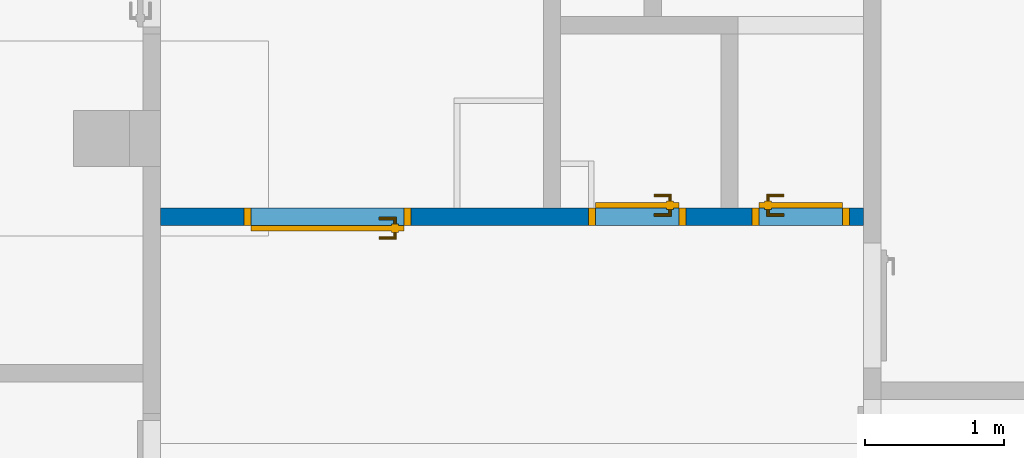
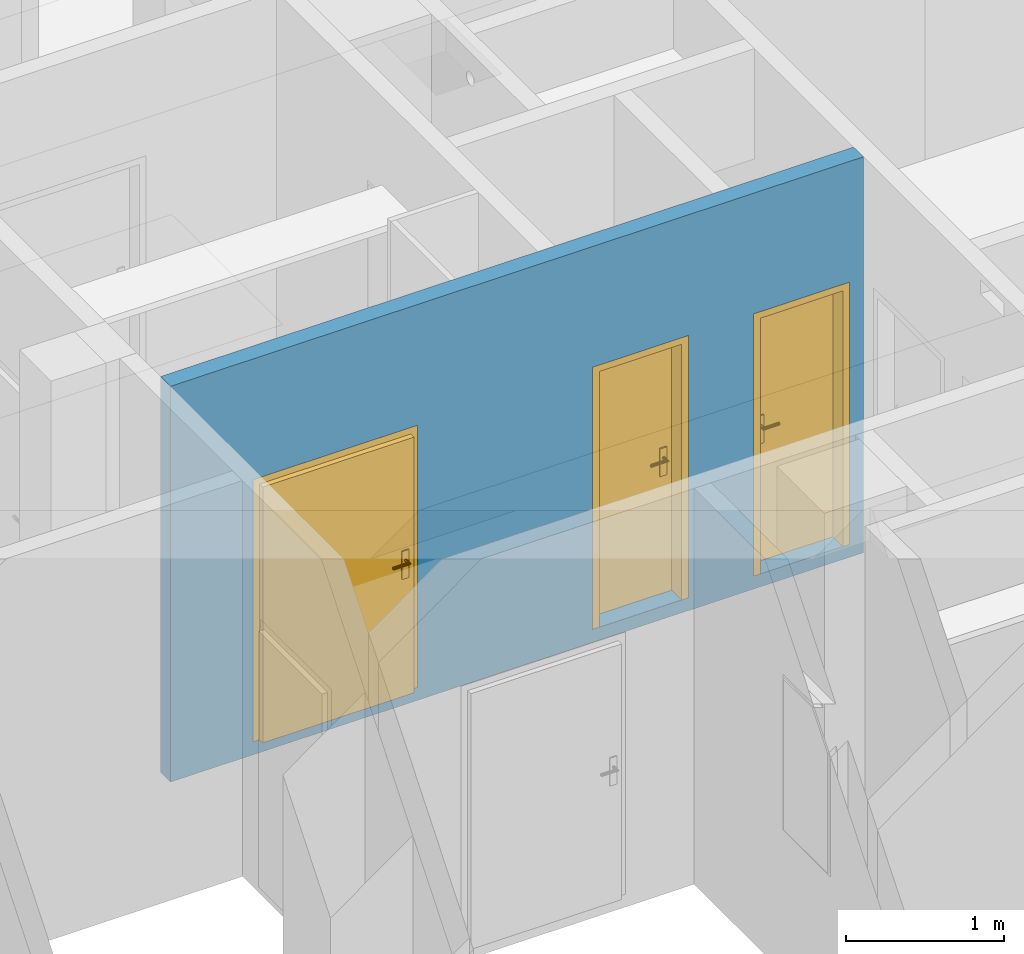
# One storey, part 37 of 84: 3 doors, 1 wall, 3 openings.
"""IFC4 building model written with IfcOpenShell, lengths in metres."""

from ifc_helpers import new_model, entity, si_unit, converted_unit, derived_unit, frame, frame_2d, origin, origin_with_axes, place, context, subcontext, project, spatial, polyline, rectangle, outline, extrude, closed_shell, open_shell, surface_model, source, transform, mapped, material, layer, layer_set, layer_usage, type_object, element, fill, save


model = new_model("IFC4")

# Units and contexts
model_context = context("Model", 3, precision=1e-05, world=origin())
body_context = subcontext(model_context, "Body", "Model", "MODEL_VIEW")
ifc_project = project(units=[si_unit("LENGTHUNIT", "METRE"), si_unit("AREAUNIT", "SQUARE_METRE"), si_unit("VOLUMEUNIT", "CUBIC_METRE"), si_unit("MASSUNIT", "GRAM", prefix="KILO"), converted_unit("PLANEANGLEUNIT", "DEGREE", entity("IfcPlaneAngleMeasure", 0.0174532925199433), si_unit("PLANEANGLEUNIT", "RADIAN"), dimensions=[0, 0, 0, 0, 0, 0, 0]), derived_unit("THERMALTRANSMITTANCEUNIT", [(si_unit("POWERUNIT", "WATT"), 1), (si_unit("THERMODYNAMICTEMPERATUREUNIT", "KELVIN"), -1), (si_unit("LENGTHUNIT", "METRE"), -2)]), derived_unit("VOLUMETRICFLOWRATEUNIT", [(si_unit("LENGTHUNIT", "METRE"), 3), (converted_unit("TIMEUNIT", "hour", entity("IfcTimeMeasure", 3600.0), si_unit("TIMEUNIT", "SECOND"), dimensions=[0, 0, 1, 0, 0, 0, 0]), -1), (si_unit("LENGTHUNIT", "METRE"), -1)])], contexts=[model_context])

# Site, building, storey
site_placement = place(None, origin())
site = spatial("IfcSite", under=ifc_project, at=site_placement, Name="3. ASŘ", CompositionType="ELEMENT")
building_placement = place(site_placement, origin())
building = spatial("IfcBuilding", under=site, at=building_placement, Name="Pavilon C", CompositionType="ELEMENT")
storey_placement = place(building_placement, frame((0.0, 0.0, -3.3)))
storey = spatial("IfcBuildingStorey", under=building, at=storey_placement, Name="Půdorys 1.PP", CompositionType="ELEMENT", Elevation=-3.3)

# Wall, openings, doors
ifc_material = material(Name="ZDIVO Z CDm")
ifc_layer = layer(ifc_material, 0.125)
ifc_layer_set = layer_set([ifc_layer])
ifc_layer_usage = layer_usage(ifc_layer_set, "AXIS2", "POSITIVE", 0.0)
wall_placement = place(storey_placement, frame((45.825, 16.3, -0.1), z_axis=(0.0, 0.0, 1.0), x_axis=(-1.0, 0.0, 0.0)))
wall = element("IfcWall", 1, at=wall_placement, inside=storey, material=ifc_layer_usage, Name="ZDIVO Z CDm", context=body_context, shape_type="SweptSolid", body=[
    extrude(rectangle(XDim=5.05, YDim=0.125, at=frame_2d((2.525, 0.0625), x_axis=(1.0, 0.0))), origin_with_axes(), (0.0, 0.0, 1.0), 3.05),
])
opening_1_placement = place(wall_placement, frame((1.975, 0.125, 0.1), z_axis=(0.0, -1.0, 0.0), x_axis=(0.0, 0.0, 1.0)))
opening_1 = element("IfcOpeningElement", 2, at=opening_1_placement, cuts=wall, Name="Dveřní otvor", ObjectType="Opening", context=body_context, shape_type="SweptSolid", body=[
    extrude(outline(polyline([(0.0, 0.7), (2.02, 0.7), (2.02, 0.0), (0.0, 0.0), (0.0, 0.7)])), origin_with_axes(), (0.0, 0.0, 1.0), 0.125),
])
opening_2_placement = place(wall_placement, frame((0.1, 0.0, 0.1), z_axis=(0.0, 1.0, 0.0), x_axis=(0.0, 0.0, 1.0)))
opening_2 = element("IfcOpeningElement", 3, at=opening_2_placement, cuts=wall, Name="Dveřní otvor", ObjectType="Opening", context=body_context, shape_type="SweptSolid", body=[
    extrude(outline(polyline([(0.0, 0.7), (2.02, 0.7), (2.02, 0.0), (0.0, 0.0), (0.0, 0.7)])), origin_with_axes(), (0.0, 0.0, 1.0), 0.125),
])
opening_3_placement = place(wall_placement, frame((3.25000000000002, 0.0, 0.1), z_axis=(0.0, 1.0, 0.0), x_axis=(0.0, 0.0, 1.0)))
opening_3 = element("IfcOpeningElement", 4, at=opening_3_placement, cuts=wall, Name="Dveřní otvor", ObjectType="Opening", context=body_context, shape_type="SweptSolid", body=[
    extrude(outline(polyline([(0.0, 1.2), (2.02, 1.2), (2.02, 0.0), (0.0, 0.0), (0.0, 1.2)])), origin_with_axes(), (0.0, 0.0, 1.0), 0.125),
])
door_type_1 = type_object("IfcDoorType", Name="D101", OperationType="NOTDEFINED", ParameterTakesPrecedence=False, PredefinedType="DOOR")
shared_shape_1 = source(origin_with_axes(), body_context, "Body", "SurfaceModel", [
    surface_model("IfcShellBasedSurfaceModel", [(0.0, 0.125, 2.02), (0.0, 0.125, -7.65404249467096e-18), (0.05, 0.125, -7.65404249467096e-18), (0.05, 0.125, 2.02), (0.0, 0.0, 7.65404249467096e-18), (0.0, 2.41584530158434e-16, 2.02), (0.05, 2.41584530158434e-16, 2.02), (0.05, 0.0, 7.65404249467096e-18)], [closed_shell([[[0, 1, 2, 3]], [[4, 5, 6, 7]], [[1, 0, 5, 4]], [[2, 1, 4, 7]], [[3, 2, 7, 6]], [[0, 3, 6, 5]]], orient=[[False], [False], [False], [False], [False], [False]])]),
    surface_model("IfcShellBasedSurfaceModel", [(0.65, 0.125, 2.02), (0.65, 0.125, -7.65404249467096e-18), (0.7, 0.125, -7.65404249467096e-18), (0.7, 0.125, 2.02), (0.65, 0.0, 7.65404249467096e-18), (0.65, 2.41584530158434e-16, 2.02), (0.7, 2.41584530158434e-16, 2.02), (0.7, 0.0, 7.65404249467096e-18)], [closed_shell([[[0, 1, 2, 3]], [[4, 5, 6, 7]], [[1, 0, 5, 4]], [[2, 1, 4, 7]], [[3, 2, 7, 6]], [[0, 3, 6, 5]]], orient=[[False], [False], [False], [False], [False], [False]])]),
    surface_model("IfcShellBasedSurfaceModel", [(0.05, 0.125, 2.02), (0.05, 0.125, 1.97), (0.65, 0.125, 1.97), (0.65, 0.125, 2.02), (0.05, 2.41584530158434e-16, 1.97), (0.05, 2.41584530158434e-16, 2.02), (0.65, 2.41584530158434e-16, 2.02), (0.65, 2.41584530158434e-16, 1.97)], [closed_shell([[[0, 1, 2, 3]], [[4, 5, 6, 7]], [[1, 0, 5, 4]], [[2, 1, 4, 7]], [[3, 2, 7, 6]], [[0, 3, 6, 5]]], orient=[[False], [False], [False], [False], [False], [False]])]),
    surface_model("IfcShellBasedSurfaceModel", [(0.05, 0.165, 1.97), (0.05, 0.165, -1.25526296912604e-17), (0.65, 0.165, -1.25526296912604e-17), (0.65, 0.165, 1.97), (0.05, 0.125, -7.65404249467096e-18), (0.05, 0.125, 1.97), (0.65, 0.125, 1.97), (0.65, 0.125, -7.65404249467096e-18)], [closed_shell([[[0, 1, 2, 3]], [[4, 5, 6, 7]], [[1, 0, 5, 4]], [[2, 1, 4, 7]], [[3, 2, 7, 6]], [[0, 3, 6, 5]]], orient=[[False], [False], [False], [False], [False], [False]])]),
    surface_model("IfcShellBasedSurfaceModel", [(0.56, 0.125, 1.125), (0.56, 0.125, 0.91), (0.61, 0.125, 0.91), (0.61, 0.125, 1.125), (0.56, 0.115, 0.91), (0.56, 0.115, 1.125), (0.61, 0.115, 1.125), (0.61, 0.115, 0.91)], [closed_shell([[[0, 1, 2, 3]], [[4, 5, 6, 7]], [[1, 0, 5, 4]], [[2, 1, 4, 7]], [[3, 2, 7, 6]], [[0, 3, 6, 5]]], orient=[[False], [False], [False], [False], [False], [False]])]),
    surface_model("IfcShellBasedSurfaceModel", [(0.585, 0.115, 1.06), (0.58, 0.115, 1.05866025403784), (0.576339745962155, 0.115, 1.055), (0.575, 0.115, 1.05), (0.576339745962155, 0.115, 1.045), (0.58, 0.115, 1.04133974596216), (0.585, 0.115, 1.04), (0.59, 0.115, 1.04133974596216), (0.593660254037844, 0.115, 1.045), (0.595, 0.115, 1.05), (0.593660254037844, 0.115, 1.055), (0.59, 0.115, 1.05866025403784), (0.59, 0.0700000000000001, 1.05866025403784), (0.585, 0.0750000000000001, 1.06), (0.593660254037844, 0.0663397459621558, 1.055), (0.595, 0.0650000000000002, 1.05), (0.593660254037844, 0.0663397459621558, 1.045), (0.59, 0.0700000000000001, 1.04133974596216), (0.585, 0.0750000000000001, 1.04), (0.58, 0.0800000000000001, 1.04133974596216), (0.576339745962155, 0.0836602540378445, 1.045), (0.575, 0.0850000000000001, 1.05), (0.576339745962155, 0.0836602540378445, 1.055), (0.58, 0.0800000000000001, 1.05866025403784), (0.47, 0.0700000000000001, 1.05866025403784), (0.47, 0.0750000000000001, 1.06), (0.47, 0.0663397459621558, 1.055), (0.47, 0.0650000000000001, 1.05), (0.47, 0.0663397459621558, 1.045), (0.47, 0.0700000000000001, 1.04133974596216), (0.47, 0.0750000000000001, 1.04), (0.47, 0.0800000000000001, 1.04133974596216), (0.47, 0.0836602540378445, 1.045), (0.47, 0.0850000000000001, 1.05), (0.47, 0.0836602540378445, 1.055), (0.47, 0.0800000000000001, 1.05866025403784)], [open_shell([[[0, 1, 2, 3, 4, 5, 6, 7, 8, 9, 10, 11]], [[0, 11, 12, 13]], [[11, 10, 14, 12]], [[10, 9, 15, 14]], [[9, 8, 16, 15]], [[8, 7, 17, 16]], [[7, 6, 18, 17]], [[6, 5, 19, 18]], [[5, 4, 20, 19]], [[4, 3, 21, 20]], [[3, 2, 22, 21]], [[2, 1, 23, 22]], [[1, 0, 13, 23]], [[13, 12, 24, 25]], [[12, 14, 26, 24]], [[14, 15, 27, 26]], [[15, 16, 28, 27]], [[16, 17, 29, 28]], [[17, 18, 30, 29]], [[18, 19, 31, 30]], [[19, 20, 32, 31]], [[20, 21, 33, 32]], [[21, 22, 34, 33]], [[22, 23, 35, 34]], [[23, 13, 25, 35]]], orient=[[False], [False], [False], [False], [False], [False], [False], [False], [False], [False], [False], [False], [False], [False], [False], [False], [False], [False], [False], [False], [False], [False], [False], [False], [False]])]),
    surface_model("IfcShellBasedSurfaceModel", [(0.56, 0.165, 1.125), (0.61, 0.165, 1.125), (0.61, 0.165, 0.91), (0.56, 0.165, 0.91), (0.56, 0.175, 0.91), (0.61, 0.175, 0.91), (0.61, 0.175, 1.125), (0.56, 0.175, 1.125)], [closed_shell([[[0, 1, 2, 3]], [[4, 5, 6, 7]], [[3, 4, 7, 0]], [[2, 5, 4, 3]], [[1, 6, 5, 2]], [[0, 7, 6, 1]]], orient=[[False], [False], [False], [False], [False], [False]])]),
    surface_model("IfcShellBasedSurfaceModel", [(0.585, 0.175, 1.06), (0.59, 0.175, 1.05866025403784), (0.593660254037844, 0.175, 1.055), (0.595, 0.175, 1.05), (0.593660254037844, 0.175, 1.045), (0.59, 0.175, 1.04133974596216), (0.585, 0.175, 1.04), (0.58, 0.175, 1.04133974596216), (0.576339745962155, 0.175, 1.045), (0.575, 0.175, 1.05), (0.576339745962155, 0.175, 1.055), (0.58, 0.175, 1.05866025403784), (0.585, 0.215, 1.06), (0.59, 0.22, 1.05866025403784), (0.593660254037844, 0.223660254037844, 1.055), (0.595, 0.225, 1.05), (0.593660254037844, 0.223660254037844, 1.045), (0.59, 0.22, 1.04133974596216), (0.585, 0.215, 1.04), (0.58, 0.21, 1.04133974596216), (0.576339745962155, 0.206339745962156, 1.045), (0.575, 0.205, 1.05), (0.576339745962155, 0.206339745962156, 1.055), (0.58, 0.21, 1.05866025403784), (0.47, 0.215, 1.06), (0.47, 0.22, 1.05866025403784), (0.47, 0.223660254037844, 1.055), (0.47, 0.225, 1.05), (0.47, 0.223660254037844, 1.045), (0.47, 0.22, 1.04133974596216), (0.47, 0.215, 1.04), (0.47, 0.21, 1.04133974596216), (0.47, 0.206339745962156, 1.045), (0.47, 0.205, 1.05), (0.47, 0.206339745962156, 1.055), (0.47, 0.21, 1.05866025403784)], [open_shell([[[0, 1, 2, 3, 4, 5, 6, 7, 8, 9, 10, 11]], [[0, 12, 13, 1]], [[1, 13, 14, 2]], [[2, 14, 15, 3]], [[3, 15, 16, 4]], [[4, 16, 17, 5]], [[5, 17, 18, 6]], [[6, 18, 19, 7]], [[7, 19, 20, 8]], [[8, 20, 21, 9]], [[9, 21, 22, 10]], [[10, 22, 23, 11]], [[11, 23, 12, 0]], [[12, 24, 25, 13]], [[13, 25, 26, 14]], [[14, 26, 27, 15]], [[15, 27, 28, 16]], [[16, 28, 29, 17]], [[17, 29, 30, 18]], [[18, 30, 31, 19]], [[19, 31, 32, 20]], [[20, 32, 33, 21]], [[21, 33, 34, 22]], [[22, 34, 35, 23]], [[23, 35, 24, 12]]], orient=[[False], [False], [False], [False], [False], [False], [False], [False], [False], [False], [False], [False], [False], [False], [False], [False], [False], [False], [False], [False], [False], [False], [False], [False], [False]])]),
])
door_1_placement = place(opening_2_placement, frame((0.0, 0.0, 0.125), z_axis=(1.0, 0.0, 0.0), x_axis=(0.0, 1.0, -2.44929359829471e-16)))
door_1 = element("IfcDoor", 5, at=door_1_placement, inside=storey, type_object=door_type_1, Name="D101", OverallHeight=2.02, OverallWidth=0.7, context=body_context, shape_type="MappedRepresentation", body=[
    mapped(shared_shape_1, transform((0.0, 0.0, 0.0), x_axis=(1.0, 0.0, 0.0), y_axis=(0.0, -1.0, 0.0), z_axis=(0.0, 0.0, 1.0), scale=1.0)),
])
fill(opening_2, door_1)
door_type_2 = type_object("IfcDoorType", Name="D101", OperationType="NOTDEFINED", ParameterTakesPrecedence=False, PredefinedType="DOOR")
shared_shape_2 = source(origin_with_axes(), body_context, "Body", "SurfaceModel", [
    surface_model("IfcShellBasedSurfaceModel", [(0.0, 0.125, 2.02), (0.0, 0.125, -7.65404249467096e-18), (0.05, 0.125, -7.65404249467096e-18), (0.05, 0.125, 2.02), (0.0, 0.0, 7.65404249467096e-18), (0.0, 2.41584530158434e-16, 2.02), (0.05, 2.41584530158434e-16, 2.02), (0.05, 0.0, 7.65404249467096e-18)], [closed_shell([[[0, 1, 2, 3]], [[4, 5, 6, 7]], [[1, 0, 5, 4]], [[2, 1, 4, 7]], [[3, 2, 7, 6]], [[0, 3, 6, 5]]], orient=[[False], [False], [False], [False], [False], [False]])]),
    surface_model("IfcShellBasedSurfaceModel", [(0.65, 0.125, 2.02), (0.65, 0.125, -7.65404249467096e-18), (0.7, 0.125, -7.65404249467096e-18), (0.7, 0.125, 2.02), (0.65, 0.0, 7.65404249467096e-18), (0.65, 2.41584530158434e-16, 2.02), (0.7, 2.41584530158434e-16, 2.02), (0.7, 0.0, 7.65404249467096e-18)], [closed_shell([[[0, 1, 2, 3]], [[4, 5, 6, 7]], [[1, 0, 5, 4]], [[2, 1, 4, 7]], [[3, 2, 7, 6]], [[0, 3, 6, 5]]], orient=[[False], [False], [False], [False], [False], [False]])]),
    surface_model("IfcShellBasedSurfaceModel", [(0.05, 0.125, 2.02), (0.05, 0.125, 1.97), (0.65, 0.125, 1.97), (0.65, 0.125, 2.02), (0.05, 2.41584530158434e-16, 1.97), (0.05, 2.41584530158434e-16, 2.02), (0.65, 2.41584530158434e-16, 2.02), (0.65, 2.41584530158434e-16, 1.97)], [closed_shell([[[0, 1, 2, 3]], [[4, 5, 6, 7]], [[1, 0, 5, 4]], [[2, 1, 4, 7]], [[3, 2, 7, 6]], [[0, 3, 6, 5]]], orient=[[False], [False], [False], [False], [False], [False]])]),
    surface_model("IfcShellBasedSurfaceModel", [(0.05, 0.165, 1.97), (0.05, 0.165, -1.25526296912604e-17), (0.65, 0.165, -1.25526296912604e-17), (0.65, 0.165, 1.97), (0.05, 0.125, -7.65404249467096e-18), (0.05, 0.125, 1.97), (0.65, 0.125, 1.97), (0.65, 0.125, -7.65404249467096e-18)], [closed_shell([[[0, 1, 2, 3]], [[4, 5, 6, 7]], [[1, 0, 5, 4]], [[2, 1, 4, 7]], [[3, 2, 7, 6]], [[0, 3, 6, 5]]], orient=[[False], [False], [False], [False], [False], [False]])]),
    surface_model("IfcShellBasedSurfaceModel", [(0.56, 0.125, 1.125), (0.56, 0.125, 0.91), (0.61, 0.125, 0.91), (0.61, 0.125, 1.125), (0.56, 0.115, 0.91), (0.56, 0.115, 1.125), (0.61, 0.115, 1.125), (0.61, 0.115, 0.91)], [closed_shell([[[0, 1, 2, 3]], [[4, 5, 6, 7]], [[1, 0, 5, 4]], [[2, 1, 4, 7]], [[3, 2, 7, 6]], [[0, 3, 6, 5]]], orient=[[False], [False], [False], [False], [False], [False]])]),
    surface_model("IfcShellBasedSurfaceModel", [(0.585, 0.115, 1.06), (0.58, 0.115, 1.05866025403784), (0.576339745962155, 0.115, 1.055), (0.575, 0.115, 1.05), (0.576339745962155, 0.115, 1.045), (0.58, 0.115, 1.04133974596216), (0.585, 0.115, 1.04), (0.59, 0.115, 1.04133974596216), (0.593660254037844, 0.115, 1.045), (0.595, 0.115, 1.05), (0.593660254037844, 0.115, 1.055), (0.59, 0.115, 1.05866025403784), (0.59, 0.0700000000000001, 1.05866025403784), (0.585, 0.0750000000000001, 1.06), (0.593660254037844, 0.0663397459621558, 1.055), (0.595, 0.0650000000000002, 1.05), (0.593660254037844, 0.0663397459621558, 1.045), (0.59, 0.0700000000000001, 1.04133974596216), (0.585, 0.0750000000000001, 1.04), (0.58, 0.0800000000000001, 1.04133974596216), (0.576339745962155, 0.0836602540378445, 1.045), (0.575, 0.0850000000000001, 1.05), (0.576339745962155, 0.0836602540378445, 1.055), (0.58, 0.0800000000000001, 1.05866025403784), (0.47, 0.0700000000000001, 1.05866025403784), (0.47, 0.0750000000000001, 1.06), (0.47, 0.0663397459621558, 1.055), (0.47, 0.0650000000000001, 1.05), (0.47, 0.0663397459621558, 1.045), (0.47, 0.0700000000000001, 1.04133974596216), (0.47, 0.0750000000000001, 1.04), (0.47, 0.0800000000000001, 1.04133974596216), (0.47, 0.0836602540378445, 1.045), (0.47, 0.0850000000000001, 1.05), (0.47, 0.0836602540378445, 1.055), (0.47, 0.0800000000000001, 1.05866025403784)], [open_shell([[[0, 1, 2, 3, 4, 5, 6, 7, 8, 9, 10, 11]], [[0, 11, 12, 13]], [[11, 10, 14, 12]], [[10, 9, 15, 14]], [[9, 8, 16, 15]], [[8, 7, 17, 16]], [[7, 6, 18, 17]], [[6, 5, 19, 18]], [[5, 4, 20, 19]], [[4, 3, 21, 20]], [[3, 2, 22, 21]], [[2, 1, 23, 22]], [[1, 0, 13, 23]], [[13, 12, 24, 25]], [[12, 14, 26, 24]], [[14, 15, 27, 26]], [[15, 16, 28, 27]], [[16, 17, 29, 28]], [[17, 18, 30, 29]], [[18, 19, 31, 30]], [[19, 20, 32, 31]], [[20, 21, 33, 32]], [[21, 22, 34, 33]], [[22, 23, 35, 34]], [[23, 13, 25, 35]]], orient=[[False], [False], [False], [False], [False], [False], [False], [False], [False], [False], [False], [False], [False], [False], [False], [False], [False], [False], [False], [False], [False], [False], [False], [False], [False]])]),
    surface_model("IfcShellBasedSurfaceModel", [(0.56, 0.165, 1.125), (0.61, 0.165, 1.125), (0.61, 0.165, 0.91), (0.56, 0.165, 0.91), (0.56, 0.175, 0.91), (0.61, 0.175, 0.91), (0.61, 0.175, 1.125), (0.56, 0.175, 1.125)], [closed_shell([[[0, 1, 2, 3]], [[4, 5, 6, 7]], [[3, 4, 7, 0]], [[2, 5, 4, 3]], [[1, 6, 5, 2]], [[0, 7, 6, 1]]], orient=[[False], [False], [False], [False], [False], [False]])]),
    surface_model("IfcShellBasedSurfaceModel", [(0.585, 0.175, 1.06), (0.59, 0.175, 1.05866025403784), (0.593660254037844, 0.175, 1.055), (0.595, 0.175, 1.05), (0.593660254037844, 0.175, 1.045), (0.59, 0.175, 1.04133974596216), (0.585, 0.175, 1.04), (0.58, 0.175, 1.04133974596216), (0.576339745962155, 0.175, 1.045), (0.575, 0.175, 1.05), (0.576339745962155, 0.175, 1.055), (0.58, 0.175, 1.05866025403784), (0.585, 0.215, 1.06), (0.59, 0.22, 1.05866025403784), (0.593660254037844, 0.223660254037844, 1.055), (0.595, 0.225, 1.05), (0.593660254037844, 0.223660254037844, 1.045), (0.59, 0.22, 1.04133974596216), (0.585, 0.215, 1.04), (0.58, 0.21, 1.04133974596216), (0.576339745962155, 0.206339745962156, 1.045), (0.575, 0.205, 1.05), (0.576339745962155, 0.206339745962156, 1.055), (0.58, 0.21, 1.05866025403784), (0.47, 0.215, 1.06), (0.47, 0.22, 1.05866025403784), (0.47, 0.223660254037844, 1.055), (0.47, 0.225, 1.05), (0.47, 0.223660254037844, 1.045), (0.47, 0.22, 1.04133974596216), (0.47, 0.215, 1.04), (0.47, 0.21, 1.04133974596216), (0.47, 0.206339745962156, 1.045), (0.47, 0.205, 1.05), (0.47, 0.206339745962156, 1.055), (0.47, 0.21, 1.05866025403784)], [open_shell([[[0, 1, 2, 3, 4, 5, 6, 7, 8, 9, 10, 11]], [[0, 12, 13, 1]], [[1, 13, 14, 2]], [[2, 14, 15, 3]], [[3, 15, 16, 4]], [[4, 16, 17, 5]], [[5, 17, 18, 6]], [[6, 18, 19, 7]], [[7, 19, 20, 8]], [[8, 20, 21, 9]], [[9, 21, 22, 10]], [[10, 22, 23, 11]], [[11, 23, 12, 0]], [[12, 24, 25, 13]], [[13, 25, 26, 14]], [[14, 26, 27, 15]], [[15, 27, 28, 16]], [[16, 28, 29, 17]], [[17, 29, 30, 18]], [[18, 30, 31, 19]], [[19, 31, 32, 20]], [[20, 32, 33, 21]], [[21, 33, 34, 22]], [[22, 34, 35, 23]], [[23, 35, 24, 12]]], orient=[[False], [False], [False], [False], [False], [False], [False], [False], [False], [False], [False], [False], [False], [False], [False], [False], [False], [False], [False], [False], [False], [False], [False], [False], [False]])]),
])
door_2_placement = place(opening_1_placement, frame((0.0, 0.0, 0.0), z_axis=(1.0, 0.0, 0.0), x_axis=(0.0, 1.0, 0.0)))
door_2 = element("IfcDoor", 6, at=door_2_placement, inside=storey, type_object=door_type_2, Name="D101", OverallHeight=2.02, OverallWidth=0.7, context=body_context, shape_type="MappedRepresentation", body=[
    mapped(shared_shape_2, transform((0.0, 0.0, 0.0), x_axis=(1.0, 0.0, 0.0), y_axis=(0.0, 1.0, 0.0), z_axis=(0.0, 0.0, 1.0), scale=1.0)),
])
fill(opening_1, door_2)
door_type_3 = type_object("IfcDoorType", Name="D101", OperationType="NOTDEFINED", ParameterTakesPrecedence=False, PredefinedType="DOOR")
shared_shape_3 = source(origin_with_axes(), body_context, "Body", "SurfaceModel", [
    surface_model("IfcShellBasedSurfaceModel", [(0.0, 0.125, 2.02), (0.0, 0.125, -7.65404249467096e-18), (0.05, 0.125, -7.65404249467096e-18), (0.05, 0.125, 2.02), (0.0, 0.0, 7.65404249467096e-18), (0.0, 2.41584530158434e-16, 2.02), (0.05, 2.41584530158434e-16, 2.02), (0.05, 0.0, 7.65404249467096e-18)], [closed_shell([[[0, 1, 2, 3]], [[4, 5, 6, 7]], [[1, 0, 5, 4]], [[2, 1, 4, 7]], [[3, 2, 7, 6]], [[0, 3, 6, 5]]], orient=[[False], [False], [False], [False], [False], [False]])]),
    surface_model("IfcShellBasedSurfaceModel", [(1.15, 0.125, 2.02), (1.15, 0.125, -7.65404249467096e-18), (1.2, 0.125, -7.65404249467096e-18), (1.2, 0.125, 2.02), (1.15, 0.0, 7.65404249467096e-18), (1.15, 2.41584530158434e-16, 2.02), (1.2, 2.41584530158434e-16, 2.02), (1.2, 0.0, 7.65404249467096e-18)], [closed_shell([[[0, 1, 2, 3]], [[4, 5, 6, 7]], [[1, 0, 5, 4]], [[2, 1, 4, 7]], [[3, 2, 7, 6]], [[0, 3, 6, 5]]], orient=[[False], [False], [False], [False], [False], [False]])]),
    surface_model("IfcShellBasedSurfaceModel", [(0.05, 0.125, 2.02), (0.05, 0.125, 1.97), (1.15, 0.125, 1.97), (1.15, 0.125, 2.02), (0.05, 2.41584530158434e-16, 1.97), (0.05, 2.41584530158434e-16, 2.02), (1.15, 2.41584530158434e-16, 2.02), (1.15, 2.41584530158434e-16, 1.97)], [closed_shell([[[0, 1, 2, 3]], [[4, 5, 6, 7]], [[1, 0, 5, 4]], [[2, 1, 4, 7]], [[3, 2, 7, 6]], [[0, 3, 6, 5]]], orient=[[False], [False], [False], [False], [False], [False]])]),
    surface_model("IfcShellBasedSurfaceModel", [(0.05, 0.165, 1.97), (0.05, 0.165, -1.25526296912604e-17), (1.15, 0.165, -1.25526296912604e-17), (1.15, 0.165, 1.97), (0.05, 0.125, -7.65404249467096e-18), (0.05, 0.125, 1.97), (1.15, 0.125, 1.97), (1.15, 0.125, -7.65404249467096e-18)], [closed_shell([[[0, 1, 2, 3]], [[4, 5, 6, 7]], [[1, 0, 5, 4]], [[2, 1, 4, 7]], [[3, 2, 7, 6]], [[0, 3, 6, 5]]], orient=[[False], [False], [False], [False], [False], [False]])]),
    surface_model("IfcShellBasedSurfaceModel", [(1.06, 0.125, 1.125), (1.06, 0.125, 0.91), (1.11, 0.125, 0.91), (1.11, 0.125, 1.125), (1.06, 0.115, 0.91), (1.06, 0.115, 1.125), (1.11, 0.115, 1.125), (1.11, 0.115, 0.91)], [closed_shell([[[0, 1, 2, 3]], [[4, 5, 6, 7]], [[1, 0, 5, 4]], [[2, 1, 4, 7]], [[3, 2, 7, 6]], [[0, 3, 6, 5]]], orient=[[False], [False], [False], [False], [False], [False]])]),
    surface_model("IfcShellBasedSurfaceModel", [(1.085, 0.115, 1.06), (1.08, 0.115, 1.05866025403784), (1.07633974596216, 0.115, 1.055), (1.075, 0.115, 1.05), (1.07633974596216, 0.115, 1.045), (1.08, 0.115, 1.04133974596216), (1.085, 0.115, 1.04), (1.09, 0.115, 1.04133974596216), (1.09366025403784, 0.115, 1.045), (1.095, 0.115, 1.05), (1.09366025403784, 0.115, 1.055), (1.09, 0.115, 1.05866025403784), (1.09, 0.0700000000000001, 1.05866025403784), (1.085, 0.0750000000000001, 1.06), (1.09366025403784, 0.0663397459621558, 1.055), (1.095, 0.0650000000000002, 1.05), (1.09366025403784, 0.0663397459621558, 1.045), (1.09, 0.0700000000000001, 1.04133974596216), (1.085, 0.0750000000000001, 1.04), (1.08, 0.0800000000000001, 1.04133974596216), (1.07633974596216, 0.0836602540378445, 1.045), (1.075, 0.0850000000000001, 1.05), (1.07633974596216, 0.0836602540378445, 1.055), (1.08, 0.0800000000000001, 1.05866025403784), (0.97, 0.0700000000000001, 1.05866025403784), (0.97, 0.0750000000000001, 1.06), (0.97, 0.0663397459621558, 1.055), (0.97, 0.0650000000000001, 1.05), (0.97, 0.0663397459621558, 1.045), (0.97, 0.0700000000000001, 1.04133974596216), (0.97, 0.0750000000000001, 1.04), (0.97, 0.0800000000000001, 1.04133974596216), (0.97, 0.0836602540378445, 1.045), (0.97, 0.0850000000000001, 1.05), (0.97, 0.0836602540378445, 1.055), (0.97, 0.0800000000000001, 1.05866025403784)], [open_shell([[[0, 1, 2, 3, 4, 5, 6, 7, 8, 9, 10, 11]], [[0, 11, 12, 13]], [[11, 10, 14, 12]], [[10, 9, 15, 14]], [[9, 8, 16, 15]], [[8, 7, 17, 16]], [[7, 6, 18, 17]], [[6, 5, 19, 18]], [[5, 4, 20, 19]], [[4, 3, 21, 20]], [[3, 2, 22, 21]], [[2, 1, 23, 22]], [[1, 0, 13, 23]], [[13, 12, 24, 25]], [[12, 14, 26, 24]], [[14, 15, 27, 26]], [[15, 16, 28, 27]], [[16, 17, 29, 28]], [[17, 18, 30, 29]], [[18, 19, 31, 30]], [[19, 20, 32, 31]], [[20, 21, 33, 32]], [[21, 22, 34, 33]], [[22, 23, 35, 34]], [[23, 13, 25, 35]]], orient=[[False], [False], [False], [False], [False], [False], [False], [False], [False], [False], [False], [False], [False], [False], [False], [False], [False], [False], [False], [False], [False], [False], [False], [False], [False]])]),
    surface_model("IfcShellBasedSurfaceModel", [(1.06, 0.165, 1.125), (1.11, 0.165, 1.125), (1.11, 0.165, 0.91), (1.06, 0.165, 0.91), (1.06, 0.175, 0.91), (1.11, 0.175, 0.91), (1.11, 0.175, 1.125), (1.06, 0.175, 1.125)], [closed_shell([[[0, 1, 2, 3]], [[4, 5, 6, 7]], [[3, 4, 7, 0]], [[2, 5, 4, 3]], [[1, 6, 5, 2]], [[0, 7, 6, 1]]], orient=[[False], [False], [False], [False], [False], [False]])]),
    surface_model("IfcShellBasedSurfaceModel", [(1.085, 0.175, 1.06), (1.09, 0.175, 1.05866025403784), (1.09366025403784, 0.175, 1.055), (1.095, 0.175, 1.05), (1.09366025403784, 0.175, 1.045), (1.09, 0.175, 1.04133974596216), (1.085, 0.175, 1.04), (1.08, 0.175, 1.04133974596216), (1.07633974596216, 0.175, 1.045), (1.075, 0.175, 1.05), (1.07633974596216, 0.175, 1.055), (1.08, 0.175, 1.05866025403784), (1.085, 0.215, 1.06), (1.09, 0.22, 1.05866025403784), (1.09366025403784, 0.223660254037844, 1.055), (1.095, 0.225, 1.05), (1.09366025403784, 0.223660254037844, 1.045), (1.09, 0.22, 1.04133974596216), (1.085, 0.215, 1.04), (1.08, 0.21, 1.04133974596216), (1.07633974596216, 0.206339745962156, 1.045), (1.075, 0.205, 1.05), (1.07633974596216, 0.206339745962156, 1.055), (1.08, 0.21, 1.05866025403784), (0.97, 0.215, 1.06), (0.97, 0.22, 1.05866025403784), (0.97, 0.223660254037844, 1.055), (0.97, 0.225, 1.05), (0.97, 0.223660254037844, 1.045), (0.97, 0.22, 1.04133974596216), (0.97, 0.215, 1.04), (0.97, 0.21, 1.04133974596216), (0.97, 0.206339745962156, 1.045), (0.97, 0.205, 1.05), (0.97, 0.206339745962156, 1.055), (0.97, 0.21, 1.05866025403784)], [open_shell([[[0, 1, 2, 3, 4, 5, 6, 7, 8, 9, 10, 11]], [[0, 12, 13, 1]], [[1, 13, 14, 2]], [[2, 14, 15, 3]], [[3, 15, 16, 4]], [[4, 16, 17, 5]], [[5, 17, 18, 6]], [[6, 18, 19, 7]], [[7, 19, 20, 8]], [[8, 20, 21, 9]], [[9, 21, 22, 10]], [[10, 22, 23, 11]], [[11, 23, 12, 0]], [[12, 24, 25, 13]], [[13, 25, 26, 14]], [[14, 26, 27, 15]], [[15, 27, 28, 16]], [[16, 28, 29, 17]], [[17, 29, 30, 18]], [[18, 30, 31, 19]], [[19, 31, 32, 20]], [[20, 32, 33, 21]], [[21, 33, 34, 22]], [[22, 34, 35, 23]], [[23, 35, 24, 12]]], orient=[[False], [False], [False], [False], [False], [False], [False], [False], [False], [False], [False], [False], [False], [False], [False], [False], [False], [False], [False], [False], [False], [False], [False], [False], [False]])]),
])
door_3_placement = place(opening_3_placement, frame((0.0, 1.2, 0.0), z_axis=(1.0, 0.0, 0.0), x_axis=(0.0, -1.0, 1.22464679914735e-16)))
door_3 = element("IfcDoor", 7, at=door_3_placement, inside=storey, type_object=door_type_3, Name="D101", OverallHeight=2.02, OverallWidth=1.2, context=body_context, shape_type="MappedRepresentation", body=[
    mapped(shared_shape_3, transform((0.0, 0.0, 0.0), x_axis=(1.0, 0.0, 0.0), y_axis=(0.0, -1.0, 0.0), z_axis=(0.0, 0.0, 1.0), scale=1.0)),
])
fill(opening_3, door_3)

save(model, "model.ifc")
